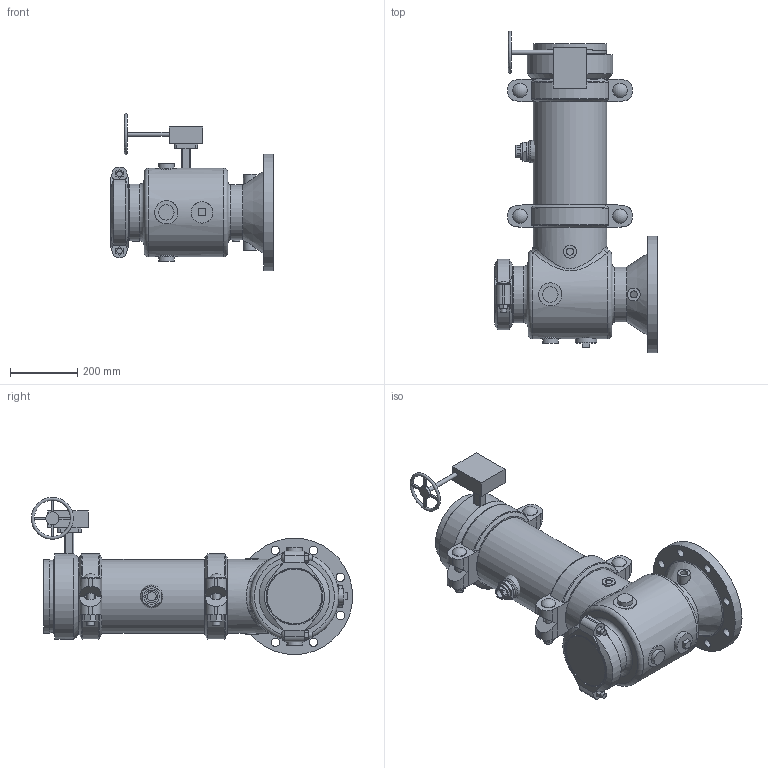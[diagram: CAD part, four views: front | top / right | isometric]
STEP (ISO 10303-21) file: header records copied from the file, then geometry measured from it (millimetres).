
FILE_DESCRIPTION(/* description */ ('VIC SVI PUMP DROP HORZ S/391 (OGSxFLG)','CAx-IF Rec.Pracs.---Representation and Presentation of Product Manufacturing Information (PMI)---4.0---2014-10-13'),/* implementation_level */ '2;1');
FILE_NAME(/* name */ 'C:\Users\kkamble\AppData\Roaming\Autodesk\ApplicationPlugins\Back Up\Victaulic_PN10_Series 391 (OGSxFLG)\Victaulic_PN10_Series 391 (OGSxFLG)_08.0x08.0 (200x200).stp',/* time_stamp */ '2020-11-26T23:45:20+05:00',/* author */ ('kkamble'),/* organization */ ('Victaulic'),/* preprocessor_version */ 'ST-DEVELOPER v17.2',/* originating_system */ 'Autodesk Inventor 2019',/* authorisation */ '');
FILE_SCHEMA (('AP242_MANAGED_MODEL_BASED_3D_ENGINEERING_MIM_LF { 1 0 10303 442 1 1 4 }'));
Length unit declared in the file: inch
Products named in the file (9): 391-08.0x08.0; 731D-08.0x08.0; 731D-08.0x08.0_1; 731D-08.0; 07-06.0; PIPE-08.0; 177N-08.0; 761-08.0; 923-04.0x0.75
Assembly tree (9 placements, depth 3):
  391-08.0x08.0
    731D-08.0x08.0
      731D-08.0x08.0_1
      731D-08.0
      07-06.0
    177N-08.0  x2
    PIPE-08.0
    761-08.0
    923-04.0x0.75
Bounding box: 482.6 x 953 x 466.33 mm (x, y, z)
Volume: 18411666 mm3; surface area: 2358877.2 mm2
Topology: 8 solids, 11 shells, 511 faces, 1350 edges, 911 vertices
Faces by surface type: plane 294, cylinder 170, cone 19, torus 18, sphere 6, bspline 4
Full cylindrical faces by diameter (mm): 8.636 x4, 12.446 x1, 12.7 x1, 15.875 x4, 20.955 x4, 22.225 x4, 22.86 x1, 24.994 x8, 26.67 x1, 27.381 x2, 38.1 x4, 39.125 x1, 42.85 x4, 45.72 x3, 45.974 x2, 55.118 x1, 55.626 x1, 63.5 x1, 132.588 x1, 136.906 x1, 146.558 x1, 155.575 x1, 162.814 x1, 163.703 x1, 163.957 x1, 168.275 x5, 193.802 x1, 202.717 x2, 203.2 x1, 206.375 x2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
Entity records: 15536 total; most frequent: CARTESIAN_POINT 3996, DIRECTION 2336, ORIENTED_EDGE 2202, EDGE_CURVE 1101, AXIS2_PLACEMENT_3D 899, VERTEX_POINT 747, LINE 538, VECTOR 538
